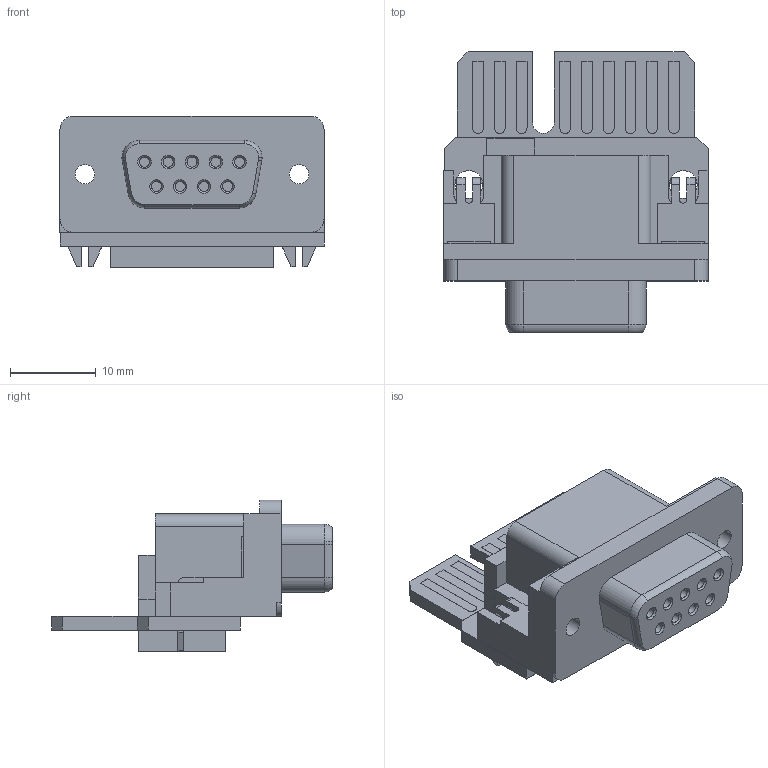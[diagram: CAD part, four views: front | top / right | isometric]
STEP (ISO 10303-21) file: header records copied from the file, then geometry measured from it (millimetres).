
FILE_DESCRIPTION (( 'STEP AP203' ), '1' );
FILE_NAME ('CARD_EDGE_ADAPTER.STEP', '2023-11-17T14:44:53', ( '' ), ( '' ), 'SwSTEP 2.0', 'SolidWorks 2020', '' );
FILE_SCHEMA (( 'CONFIG_CONTROL_DESIGN' ));
Length unit declared in the file: inch
Products named in the file (1): CARD_EDGE_ADAPTER
Bounding box: 30.81 x 32.77 x 17.71 mm (x, y, z)
Volume: 6294.8 mm3; surface area: 5555.2 mm2
Topology: 6 solids, 6 shells, 391 faces, 959 edges, 629 vertices
Faces by surface type: plane 260, cylinder 107, cone 18, torus 6
Entity records: 11563 total; most frequent: DIRECTION 1988, CARTESIAN_POINT 1980, ORIENTED_EDGE 1918, EDGE_CURVE 959, VECTOR 714, LINE 714, AXIS2_PLACEMENT_3D 637, VERTEX_POINT 629
